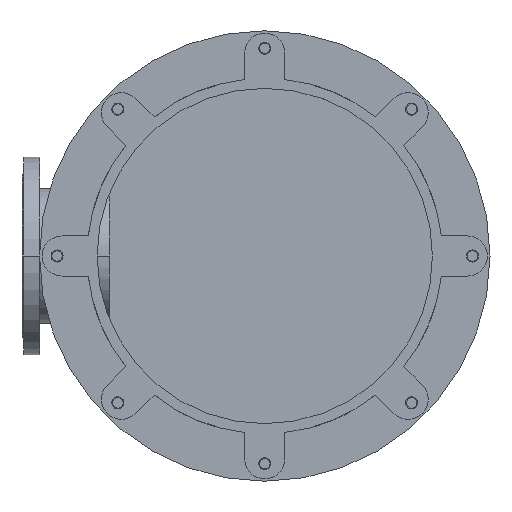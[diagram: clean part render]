
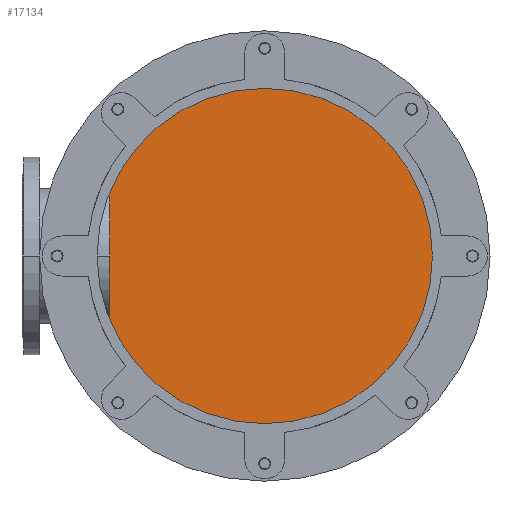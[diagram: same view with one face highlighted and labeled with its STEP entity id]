
A CAD part, front view. The second image highlights one B-rep face of the part: STEP entity #17134.
In plain terms, the highlighted planar face has unit normal (0, -1, 0).
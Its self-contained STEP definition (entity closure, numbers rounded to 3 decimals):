
#5062=CARTESIAN_POINT('',(0.,951.,0.));
#5063=DIRECTION('',(0.,-1.,0.));
#5064=DIRECTION('',(0.,0.,1.));
#5065=AXIS2_PLACEMENT_3D('',#5062,#5063,#5064);
#5239=CARTESIAN_POINT('',(0.,951.,0.));
#5240=DIRECTION('',(0.,-1.,0.));
#5241=DIRECTION('',(0.,0.,-1.));
#5242=AXIS2_PLACEMENT_3D('',#5239,#5240,#5241);
#9234=CARTESIAN_POINT('',(0.,951.,350.));
#9235=CARTESIAN_POINT('',(0.,951.,-350.));
#9236=VERTEX_POINT('',#9234);
#9237=VERTEX_POINT('',#9235);
#17124=CARTESIAN_POINT('',(0.,951.,0.));
#17125=DIRECTION('',(0.,1.,0.));
#17126=DIRECTION('',(0.,0.,-1.));
#17127=AXIS2_PLACEMENT_3D('',#17124,#17125,#17126);
#17128=PLANE('',#17127);
#17129=ORIENTED_EDGE('',*,*,#17102,.F.);
#17131=ORIENTED_EDGE('',*,*,#17130,.F.);
#17132=EDGE_LOOP('',(#17129,#17131));
#17133=FACE_OUTER_BOUND('',#17132,.F.);
#17134=ADVANCED_FACE('',(#17133),#17128,.F.);
#5066=CIRCLE('',#5065,350.);
#5243=CIRCLE('',#5242,350.);
#17102=EDGE_CURVE('',#9236,#9237,#5066,.T.);
#17130=EDGE_CURVE('',#9237,#9236,#5243,.T.);
